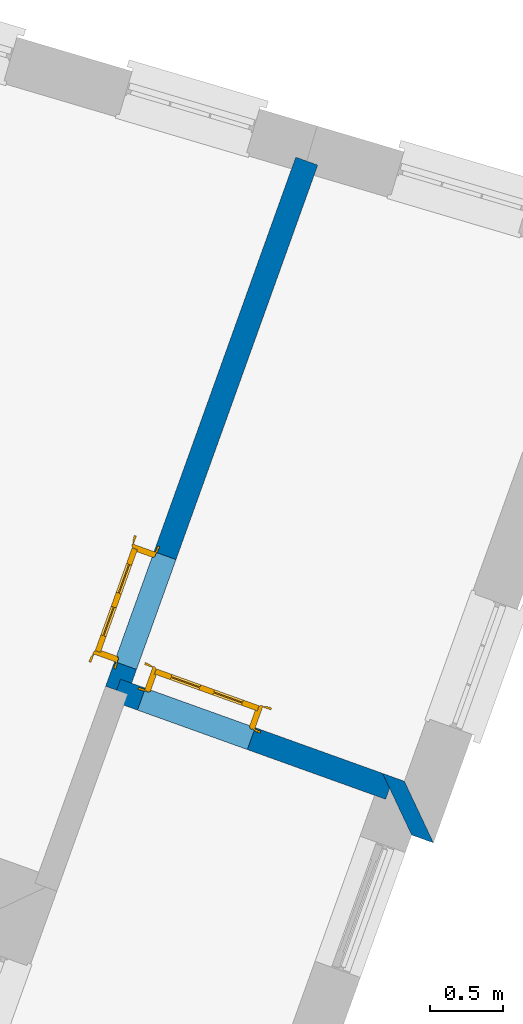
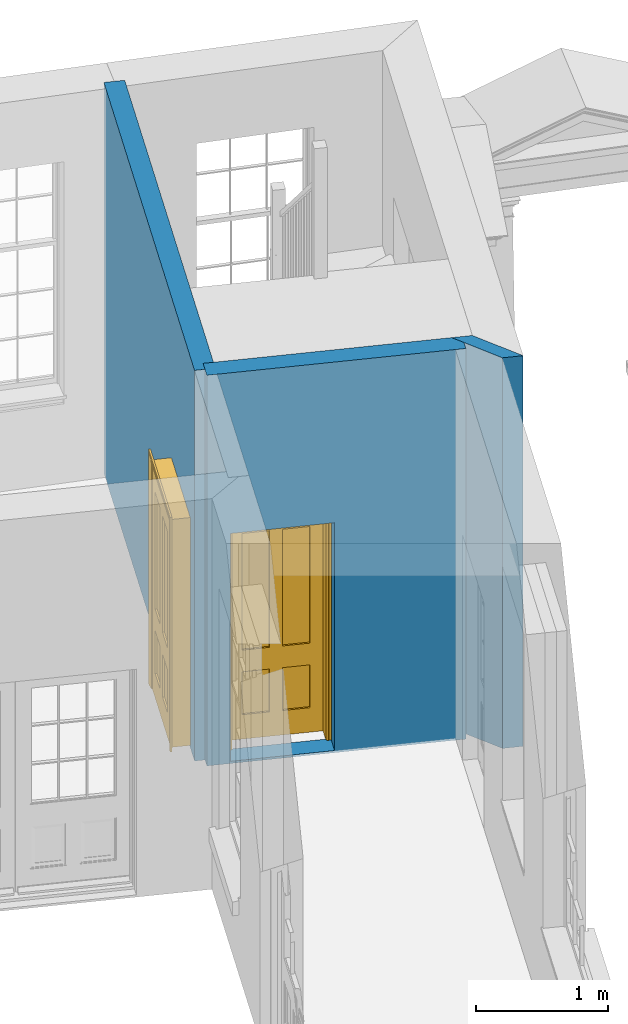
# One storey, part 4 of 7: 3 walls, 2 doors, 2 openings.
"""IFC4 building model written with IfcOpenShell, lengths in metres."""

from ifc_helpers import new_model, si_unit, frame, origin, origin_with_axes, place, context, subcontext, project, spatial, polyline, outline, extrude, faceted_brep, source, transform, mapped, material, layer, layer_set, layer_usage, type_object, type_shapes, element, fill, save


model = new_model("IFC4")

# Units and contexts
model_context = context("Model", 3, world=origin_with_axes())
body_context = subcontext(model_context, "Body", "Model", "MODEL_VIEW")
ifc_project = project(units=[si_unit("PLANEANGLEUNIT", "RADIAN"), si_unit("MASSUNIT", "GRAM", prefix="KILO"), si_unit("FORCEUNIT", "NEWTON", prefix="KILO"), si_unit("LENGTHUNIT", "METRE"), si_unit("AREAUNIT", "SQUARE_METRE"), si_unit("VOLUMEUNIT", "CUBIC_METRE")], contexts=[model_context, model_context])

# Sites, building, storey
site_1_placement = place(None, origin_with_axes())
site_1 = spatial("IfcSite", under=ifc_project, at=site_1_placement, Name="Tamar")
site_2_placement = place(site_1_placement, origin_with_axes())
site_2 = spatial("IfcSite", under=site_1, at=site_2_placement, Name="Site plot-23", CompositionType="ELEMENT")
building_placement = place(None, origin_with_axes())
building = spatial("IfcBuilding", under=site_2, at=building_placement, Name="Building plot-23", CompositionType="ELEMENT")
storey_placement = place(None, frame((0.0, 0.0, 26.0), z_axis=(0.0, 0.0, 1.0), x_axis=(1.0, 0.0, 0.0)))
storey = spatial("IfcBuildingStorey", under=building, at=storey_placement, Name="plot-23 0", CompositionType="ELEMENT", Elevation=26.0)

# Wall
ifc_material_1 = material(Name="Masonry")
ifc_layer_1 = layer(ifc_material_1, 0.33, ventilated=False)
ifc_layer_set_1 = layer_set([ifc_layer_1], Name="exterior_0.08_0.25")
ifc_layer_usage_1 = layer_usage(ifc_layer_set_1, "AXIS2", "POSITIVE", -0.25)
wall_type_1 = type_object("IfcWallType", Name="exterior_0.08_0.25", PredefinedType="SOLIDWALL", material=ifc_layer_set_1)
wall_1_placement = place(storey_placement, frame((266.177555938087, 277.829729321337, 0.0), z_axis=(0.0, 0.0, 1.0), x_axis=(0.941087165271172, -0.338164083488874, 0.0)))
element("IfcWall", 1, at=wall_1_placement, inside=storey, type_object=wall_type_1, material=ifc_layer_usage_1, Name="exterior", context=body_context, shape_type="SweptSolid", body=[
    extrude(outline(polyline([(-0.0800000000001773, 0.0799999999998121), (0.250000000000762, -0.250000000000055), (0.409135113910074, -0.250000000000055), (0.0791351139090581, 0.080000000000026), (-0.0800000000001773, 0.0799999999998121)])), origin_with_axes(), (0.0, 0.0, 1.0), 3.6),
])

# Wall, opening, door
ifc_material_2 = material(Name="Masonry")
ifc_layer_2 = layer(ifc_material_2, 0.16, ventilated=False)
ifc_layer_set_2 = layer_set([ifc_layer_2], Name="interior_0.08_0.08")
ifc_layer_usage_2 = layer_usage(ifc_layer_set_2, "AXIS2", "POSITIVE", -0.08)
wall_type_2 = type_object("IfcWallType", Name="interior_0.08_0.08", PredefinedType="SOLIDWALL", material=ifc_layer_set_2)
wall_2_placement = place(storey_placement, frame((264.307774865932, 278.501604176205, 0.0), z_axis=(0.0, 0.0, 1.0), x_axis=(0.338164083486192, 0.941087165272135, 0.0)))
wall_2 = element("IfcWall", 2, at=wall_2_placement, inside=storey, type_object=wall_type_2, material=ifc_layer_usage_2, Name="interior", context=body_context, shape_type="SweptSolid", body=[
    extrude(outline(polyline([(-8.18410644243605e-15, 0.0799999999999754), (8.19390361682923e-15, -0.0799999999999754), (3.85148296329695, -0.0799999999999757), (3.85148296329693, 0.0799999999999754), (-8.18410644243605e-15, 0.0799999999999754)])), origin_with_axes(), (0.0, 0.0, 1.0), 3.6),
])
opening_1_placement = place(wall_2_placement, frame((0.179999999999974, 0.0, 0.0199999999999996)))
opening_1 = element("IfcOpeningElement", 3, at=opening_1_placement, cuts=wall_2, Name="My Opening", ObjectType="Opening", context=body_context, shape_type="SweptSolid", body=[
    extrude(outline(polyline([(0.0, -0.100000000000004), (0.800000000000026, -0.100000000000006), (0.800000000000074, 1.09999999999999), (4.86832796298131e-14, 1.09999999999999), (0.0, -0.100000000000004)])), origin_with_axes(), (0.0, 0.0, 1.0), 2.1),
])
door_type = type_object("IfcDoorType", Name="door_inside", OperationType="SINGLE_SWING_LEFT", PredefinedType="NOTDEFINED")
shared_shape = source(origin(), body_context, "Body", "Brep", [
    faceted_brep([(0.773, 0.33, 1.895), (0.66, 0.33, 1.895), (0.66, 0.33, 2.073), (0.773, 0.33, 2.073), (0.773, 0.33, 0.82), (0.66, 0.33, 0.82), (0.45, 0.33, 1.895), (0.45, 0.33, 2.073), (0.773, 0.33, 0.62), (0.66, 0.33, 0.62), (0.66, 0.315, 0.82), (0.66, 0.315, 1.895), (0.45, 0.315, 1.895), (0.35, 0.33, 1.895), (0.35, 0.33, 2.073), (0.773, 0.33, 0.225), (0.66, 0.33, 0.225), (0.45, 0.33, 0.62), (0.45, 0.33, 0.82), (0.45, 0.315, 0.82), (0.35, 0.33, 0.82), (0.14, 0.33, 2.073), (0.14, 0.33, 1.895), (0.773, 0.33, 0.0), (0.66, 0.33, 0.0), (0.66, 0.315, 0.225), (0.66, 0.315, 0.62), (0.45, 0.315, 0.62), (0.35, 0.33, 0.62), (0.35, 0.315, 0.82), (0.35, 0.315, 1.895), (0.14, 0.315, 1.895), (0.027, 0.33, 2.073), (0.027, 0.33, 1.895), (0.773, 0.292, 0.0), (0.66, 0.292, 0.0), (0.45, 0.33, 0.0), (0.45, 0.33, 0.225), (0.45, 0.315, 0.225), (0.35, 0.33, 0.225), (0.14, 0.33, 0.82), (0.14, 0.33, 0.62), (0.14, 0.315, 0.82), (0.027, 0.33, 0.82), (0.773, 0.292, 0.225), (0.66, 0.292, 0.225), (0.45, 0.292, 0.0), (0.35, 0.33, 0.0), (0.35, 0.315, 0.225), (0.35, 0.315, 0.62), (0.14, 0.315, 0.62), (0.027, 0.33, 0.62), (0.773, 0.292, 0.62), (0.66, 0.292, 0.62), (0.45, 0.292, 0.225), (0.35, 0.292, 0.0), (0.14, 0.33, 0.225), (0.14, 0.33, 0.0), (0.14, 0.315, 0.225), (0.027, 0.33, 0.225), (0.773, 0.292, 0.82), (0.66, 0.292, 0.82), (0.66, 0.307, 0.62), (0.66, 0.307, 0.225), (0.45, 0.307, 0.225), (0.35, 0.292, 0.225), (0.14, 0.292, 0.0), (0.027, 0.33, 0.0), (0.773, 0.292, 1.895), (0.66, 0.292, 1.895), (0.45, 0.292, 0.62), (0.45, 0.292, 0.82), (0.45, 0.307, 0.62), (0.35, 0.292, 0.62), (0.14, 0.292, 0.225), (0.027, 0.292, 0.0), (0.773, 0.292, 2.073), (0.66, 0.292, 2.073), (0.66, 0.307, 1.895), (0.66, 0.307, 0.82), (0.45, 0.307, 0.82), (0.35, 0.292, 0.82), (0.35, 0.307, 0.62), (0.35, 0.307, 0.225), (0.14, 0.307, 0.225), (0.027, 0.292, 0.225), (0.45, 0.292, 1.895), (0.45, 0.292, 2.073), (0.45, 0.307, 1.895), (0.35, 0.292, 1.895), (0.14, 0.292, 0.82), (0.14, 0.292, 0.62), (0.14, 0.307, 0.62), (0.027, 0.292, 0.62), (0.35, 0.292, 2.073), (0.35, 0.307, 1.895), (0.35, 0.307, 0.82), (0.14, 0.307, 0.82), (0.027, 0.292, 0.82), (0.14, 0.292, 2.073), (0.14, 0.292, 1.895), (0.14, 0.307, 1.895), (0.027, 0.292, 1.895), (0.027, 0.292, 2.073), (0.02, 0.335, 0.0), (0.005, 0.34, 0.0), (0.005, 0.34, 2.095), (0.02, 0.335, 2.08), (0.02, 0.33, 0.0), (0.0, 0.335, 0.0), (0.0, 0.335, 2.1), (0.795, 0.34, 2.095), (0.78, 0.335, 2.08), (0.02, 0.33, 2.08), (0.0, 0.33, 0.0), (-0.032, 0.345, 0.0), (-0.032, 0.345, 2.132), (0.8, 0.335, 2.1), (0.795, 0.34, 0.0), (0.78, 0.335, 0.0), (0.78, 0.33, 2.08), (0.04, 0.29, 0.0), (0.025, 0.29, 0.0), (0.025, 0.29, 2.075), (0.04, 0.29, 2.06), (-0.04, 0.34, 0.0), (-0.04, 0.34, 2.14), (0.832, 0.345, 2.132), (0.8, 0.335, 0.0), (0.78, 0.33, 0.0), (0.8, 0.33, 0.0), (0.86, 0.33, 0.0), (0.86, 0.33, 2.16), (0.8, 0.33, 2.1), (-0.06, 0.33, 2.16), (0.0, 0.33, 2.1), (-0.06, 0.33, 0.0), (-0.04, 0.345, 0.0), (-0.04, 0.345, 2.14), (0.84, 0.34, 2.14), (0.832, 0.345, 0.0), (0.84, 0.34, 0.0), (0.86, 0.345, 0.0), (0.86, 0.345, 2.16), (-0.06, 0.345, 2.16), (-0.06, 0.345, 0.0), (0.84, 0.345, 0.0), (0.84, 0.345, 2.14), (-0.025, 0.155, 0.0), (-0.025, 0.16, 0.0), (-0.025, 0.16, 2.125), (-0.025, 0.155, 2.125), (-0.017, 0.155, 0.0), (-0.017, 0.155, 2.117), (0.825, 0.16, 2.125), (0.825, 0.155, 2.125), (0.825, 0.155, 0.0), (0.845, 0.155, 0.0), (-0.045, 0.155, 2.145), (-0.045, 0.155, 0.0), (0.845, 0.155, 2.145), (0.015, 0.165, 0.0), (0.015, 0.165, 2.085), (0.817, 0.155, 2.117), (0.825, 0.16, 0.0), (0.845, 0.17, 0.0), (0.845, 0.17, 2.145), (-0.045, 0.17, 2.145), (-0.045, 0.17, 0.0), (0.02, 0.16, 0.0), (0.02, 0.16, 2.08), (0.785, 0.165, 2.085), (0.817, 0.155, 0.0), (0.8, 0.17, 0.0), (0.8, 0.17, 2.1), (0.0, 0.17, 2.1), (0.0, 0.17, 0.0), (0.035, 0.165, 0.0), (0.035, 0.165, 2.065), (0.78, 0.16, 2.08), (0.785, 0.165, 0.0), (0.775, 0.29, 2.075), (0.76, 0.29, 2.06), (0.035, 0.17, 2.065), (0.035, 0.17, 0.0), (0.765, 0.165, 2.065), (0.78, 0.16, 0.0), (0.765, 0.17, 0.0), (0.765, 0.17, 2.065), (0.765, 0.165, 0.0), (0.04, 0.17, 2.06), (0.04, 0.17, 0.0), (0.76, 0.17, 2.06), (0.76, 0.17, 0.0), (0.76, 0.29, 0.0), (0.775, 0.29, 0.0), (0.025, 0.33, 0.0), (0.025, 0.33, 2.075), (0.775, 0.33, 0.0), (0.775, 0.33, 2.075)], [[[0, 1, 2, 3]], [[1, 0, 4, 5]], [[1, 6, 7, 2]], [[8, 9, 5, 4]], [[1, 5, 10, 11]], [[6, 1, 11, 12]], [[6, 13, 14, 7]], [[15, 16, 9, 8]], [[9, 17, 18, 5]], [[5, 18, 19, 10]], [[10, 19, 12, 11]], [[18, 6, 12, 19]], [[18, 20, 13, 6]], [[21, 14, 13, 22]], [[23, 24, 16, 15]], [[9, 16, 25, 26]], [[17, 9, 26, 27]], [[17, 28, 20, 18]], [[13, 20, 29, 30]], [[22, 13, 30, 31]], [[32, 21, 22, 33]], [[34, 35, 24, 23]], [[24, 36, 37, 16]], [[16, 37, 38, 25]], [[25, 38, 27, 26]], [[37, 17, 27, 38]], [[37, 39, 28, 17]], [[40, 20, 28, 41]], [[20, 40, 42, 29]], [[31, 30, 29, 42]], [[40, 22, 31, 42]], [[33, 22, 40, 43]], [[35, 34, 44, 45]], [[35, 46, 36, 24]], [[36, 47, 39, 37]], [[28, 39, 48, 49]], [[41, 28, 49, 50]], [[43, 40, 41, 51]], [[45, 44, 52, 53]], [[46, 35, 45, 54]], [[46, 55, 47, 36]], [[56, 39, 47, 57]], [[39, 56, 58, 48]], [[50, 49, 48, 58]], [[56, 41, 50, 58]], [[51, 41, 56, 59]], [[53, 52, 60, 61]], [[45, 53, 62, 63]], [[54, 45, 63, 64]], [[55, 46, 54, 65]], [[55, 66, 57, 47]], [[59, 56, 57, 67]], [[61, 60, 68, 69]], [[70, 53, 61, 71]], [[53, 70, 72, 62]], [[72, 64, 63, 62]], [[70, 54, 64, 72]], [[65, 54, 70, 73]], [[65, 74, 66, 55]], [[67, 57, 66, 75]], [[69, 68, 76, 77]], [[61, 69, 78, 79]], [[71, 61, 79, 80]], [[73, 70, 71, 81]], [[65, 73, 82, 83]], [[74, 65, 83, 84]], [[74, 85, 75, 66]], [[86, 69, 77, 87]], [[69, 86, 88, 78]], [[88, 80, 79, 78]], [[86, 71, 80, 88]], [[81, 71, 86, 89]], [[73, 81, 90, 91]], [[73, 91, 92, 82]], [[83, 82, 92, 84]], [[91, 74, 84, 92]], [[91, 93, 85, 74]], [[89, 86, 87, 94]], [[81, 89, 95, 96]], [[90, 81, 96, 97]], [[90, 98, 93, 91]], [[94, 99, 100, 89]], [[89, 100, 101, 95]], [[101, 97, 96, 95]], [[100, 90, 97, 101]], [[100, 102, 98, 90]], [[99, 103, 102, 100]], [[32, 103, 99, 21]], [[102, 103, 32, 33]], [[98, 102, 33, 43]], [[21, 99, 94, 14]], [[94, 87, 7, 14]], [[7, 87, 77, 2]], [[76, 3, 2, 77]], [[43, 51, 93, 98]], [[51, 59, 85, 93]], [[67, 75, 85, 59]], [[34, 23, 15, 44]], [[44, 15, 8, 52]], [[52, 8, 4, 60]], [[0, 68, 60, 4]], [[0, 3, 76, 68]], [[104, 105, 106, 107]], [[104, 108, 109, 105]], [[105, 109, 110, 106]], [[107, 106, 111, 112]], [[107, 113, 108, 104]], [[114, 109, 108]], [[109, 115, 116, 110]], [[106, 110, 117, 111]], [[112, 111, 118, 119]], [[113, 107, 112, 120]], [[121, 122, 123, 124]], [[115, 109, 114, 125]], [[115, 125, 126, 116]], [[110, 116, 127, 117]], [[111, 117, 128, 118]], [[118, 128, 129, 119]], [[120, 112, 119, 129]], [[130, 129, 128]], [[130, 131, 132, 133]], [[133, 132, 134, 135]], [[135, 134, 136, 114]], [[136, 125, 114]], [[125, 137, 138, 126]], [[116, 126, 139, 127]], [[117, 127, 140, 128]], [[141, 130, 128, 140]], [[131, 130, 141]], [[131, 142, 143, 132]], [[132, 143, 144, 134]], [[134, 144, 145, 136]], [[137, 125, 136, 145]], [[143, 142, 146]], [[143, 146, 147]], [[137, 145, 144]], [[143, 147, 138]], [[138, 137, 144]], [[143, 138, 144]], [[126, 138, 147, 139]], [[127, 139, 141, 140]], [[142, 131, 141, 146]], [[139, 147, 146, 141]], [[148, 149, 150, 151]], [[149, 152, 153, 150]], [[151, 150, 154, 155]], [[155, 156, 157]], [[158, 159, 148]], [[158, 148, 151]], [[155, 157, 160]], [[158, 151, 155]], [[155, 160, 158]], [[152, 161, 162, 153]], [[150, 153, 163, 154]], [[155, 154, 164, 156]], [[156, 164, 165, 157]], [[157, 165, 166, 160]], [[160, 166, 167, 158]], [[158, 167, 168, 159]], [[161, 169, 170, 162]], [[153, 162, 171, 163]], [[154, 163, 172, 164]], [[165, 164, 173]], [[165, 173, 174, 166]], [[166, 174, 175, 167]], [[167, 175, 176, 168]], [[169, 177, 178, 170]], [[162, 170, 179, 171]], [[163, 171, 180, 172]], [[172, 180, 173, 164]], [[124, 123, 181, 182]], [[183, 178, 177, 184]], [[170, 178, 185, 179]], [[171, 179, 186, 180]], [[187, 173, 180]], [[185, 188, 187, 189]], [[188, 185, 178, 183]], [[179, 185, 189, 186]], [[189, 187, 180, 186]], [[190, 183, 184, 191]], [[192, 188, 183, 190]], [[191, 184, 122, 121]], [[124, 190, 191, 121]], [[193, 187, 188, 192]], [[182, 192, 190, 124]], [[184, 176, 122]], [[194, 195, 187, 193]], [[192, 182, 194, 193]], [[161, 176, 184]], [[114, 108, 122, 176]], [[173, 187, 195]], [[152, 149, 176, 161]], [[169, 161, 184, 177]], [[196, 122, 108]], [[176, 175, 135, 114]], [[173, 195, 129, 130]], [[176, 149, 168]], [[123, 122, 196, 197]], [[196, 108, 113, 197]], [[175, 174, 133, 135]], [[198, 129, 195]], [[133, 174, 173, 130]], [[159, 168, 149, 148]], [[181, 123, 197, 199]], [[197, 113, 120, 199]], [[199, 120, 129, 198]], [[195, 181, 199, 198]], [[195, 194, 182, 181]]]),
])
type_shapes(door_type, [shared_shape])
door_1_placement = place(storey_placement, frame((264.462753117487, 278.637183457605, 0.0199999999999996), z_axis=(0.0, 0.0, 1.0), x_axis=(0.270531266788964, 0.752869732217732, 0.0)))
door_1 = element("IfcDoor", 4, at=door_1_placement, inside=storey, type_object=door_type, Name="living inside door", OverallHeight=2.1, OverallWidth=0.8, context=body_context, shape_type="MappedRepresentation", body=[
    mapped(shared_shape, transform((0.0, 0.0, 0.0), scale=1.0)),
])
fill(opening_1, door_1)

wall_3_placement = place(storey_placement, frame((264.307774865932, 278.501604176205, 0.0), z_axis=(0.0, 0.0, 1.0), x_axis=(0.941087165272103, -0.338164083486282, 0.0)))
wall_3 = element("IfcWall", 5, at=wall_3_placement, inside=storey, type_object=wall_type_2, material=ifc_layer_usage_2, Name="interior", context=body_context, shape_type="SweptSolid", body=[
    extrude(outline(polyline([(-1.58046772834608e-14, 0.0799999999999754), (1.57593529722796e-14, -0.0799999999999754), (1.98683091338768, -0.0799999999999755), (1.98683091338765, 0.0799999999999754), (-1.58046772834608e-14, 0.0799999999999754)])), origin_with_axes(), (0.0, 0.0, 1.0), 3.6),
])
opening_2_placement = place(wall_3_placement, frame((0.179999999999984, 0.0, 0.0199999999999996)))
opening_2 = element("IfcOpeningElement", 6, at=opening_2_placement, cuts=wall_3, Name="My Opening", ObjectType="Opening", context=body_context, shape_type="SweptSolid", body=[
    extrude(outline(polyline([(0.0, -0.0999999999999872), (0.799999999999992, -0.0999999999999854), (0.79999999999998, 1.10000000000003), (-1.23512311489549e-14, 1.10000000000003), (0.0, -0.0999999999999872)])), origin_with_axes(), (0.0, 0.0, 1.0), 2.1),
])
door_2_placement = place(storey_placement, frame((264.443354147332, 278.34662592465, 0.0199999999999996), z_axis=(0.0, 0.0, 1.0), x_axis=(0.752869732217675, -0.270531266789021, 0.0)))
door_2 = element("IfcDoor", 7, at=door_2_placement, inside=storey, type_object=door_type, Name="bedroom inside door", OverallHeight=2.1, OverallWidth=0.8, context=body_context, shape_type="MappedRepresentation", body=[
    mapped(shared_shape, transform((0.0, 0.0, 0.0), scale=1.0)),
])
fill(opening_2, door_2)

save(model, "model.ifc")
